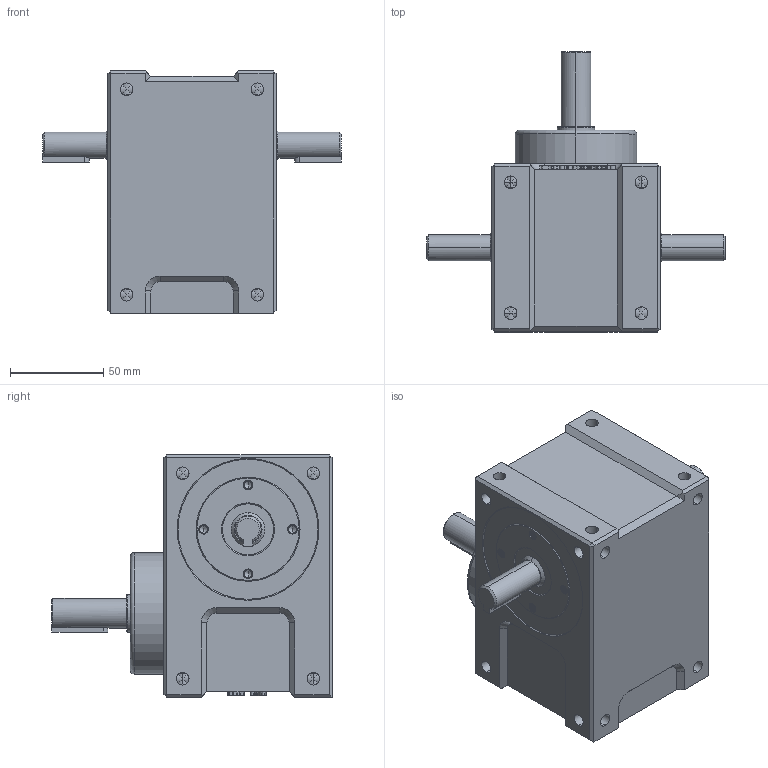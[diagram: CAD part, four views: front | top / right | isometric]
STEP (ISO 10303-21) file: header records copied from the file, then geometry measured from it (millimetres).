
FILE_DESCRIPTION (( 'STEP AP214' ), '1' );
FILE_NAME ('ER-RU45DS英锐凸轮分割器3D标准图纸(电话15062628977)AA.STEP', '2022-10-19T02:18:42', ( '微软用户' ), ( '微软中国' ), 'SwSTEP 2.0', 'SolidWorks 2017', '' );
FILE_SCHEMA (( 'AUTOMOTIVE_DESIGN' ));
Length unit declared in the file: millimetre
Products named in the file (1): ER-RU45DS英锐凸轮分割器3D标准图纸(电话15062628977)AA
Bounding box: 160 x 150 x 130 mm (x, y, z)
Volume: 1073799.4 mm3; surface area: 83984.6 mm2
Topology: 1 solids, 41 shells, 2040 faces, 5299 edges, 3399 vertices
Faces by surface type: cylinder 996, plane 471, bspline 452, cone 115, torus 6
Entity records: 169049 total; most frequent: CARTESIAN_POINT 126854, ORIENTED_EDGE 10470, DIRECTION 6127, EDGE_CURVE 5235, VERTEX_POINT 3399, EDGE_LOOP 2178, AXIS2_PLACEMENT_3D 2098, FACE_OUTER_BOUND 2040
